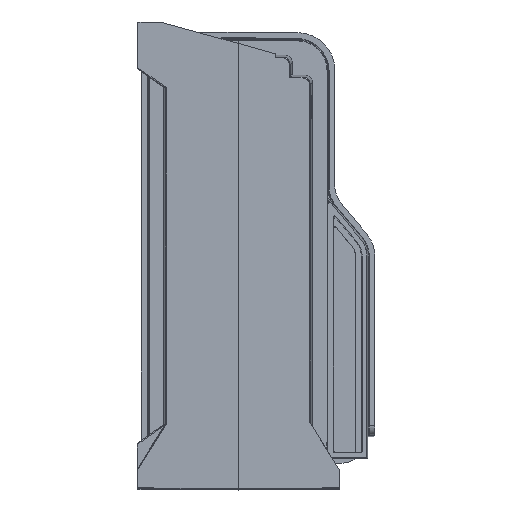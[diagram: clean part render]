
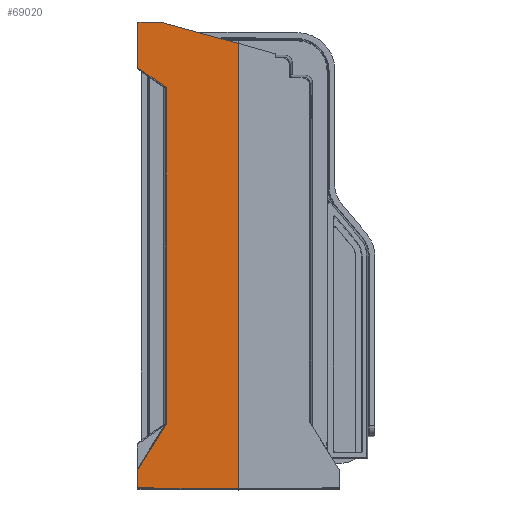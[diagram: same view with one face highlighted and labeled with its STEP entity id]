
A CAD part, top view. The second image highlights one B-rep face of the part: STEP entity #69020.
In plain terms, the highlighted planar face has unit normal (-0.009, 0, 1).
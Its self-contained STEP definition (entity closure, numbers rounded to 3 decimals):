
#21744=DIRECTION('',(0.,1.,0.));
#21745=VECTOR('',#21744,15.819);
#21746=CARTESIAN_POINT('',(-34.703,65.156,
105.697));
#21747=LINE('',#21746,#21745);
#21748=DIRECTION('',(-0.964,0.265,-0.008));
#21749=VECTOR('',#21748,27.838);
#21750=CARTESIAN_POINT('',(0.,73.575,106.));
#21751=LINE('',#21750,#21749);
#21752=DIRECTION('',(0.,1.,0.));
#21753=VECTOR('',#21752,154.275);
#21754=CARTESIAN_POINT('',(0.,-80.7,
106.));
#21755=LINE('',#21754,#21753);
#21756=DIRECTION('',(-1.,0.009,-0.009));
#21757=VECTOR('',#21756,34.705);
#21758=CARTESIAN_POINT('',(0.,-80.7,
106.));
#21759=LINE('',#21758,#21757);
#21760=DIRECTION('',(0.,-1.,0.));
#21761=VECTOR('',#21760,6.311);
#21762=CARTESIAN_POINT('',(-34.703,-74.086,
105.697));
#21763=LINE('',#21762,#21761);
#21764=DIRECTION('',(0.,1.,0.));
#21765=VECTOR('',#21764,115.9);
#21766=CARTESIAN_POINT('',(-24.69,-58.065,
105.785));
#21767=LINE('',#21766,#21765);
#21768=CARTESIAN_POINT('',(-24.69,57.835,
105.785));
#21769=CARTESIAN_POINT('',(-24.69,57.908,
105.785));
#21770=CARTESIAN_POINT('',(-24.715,58.042,
105.784));
#21771=CARTESIAN_POINT('',(-24.813,58.214,
105.783));
#21772=CARTESIAN_POINT('',(-24.898,58.293,
105.783));
#21773=CARTESIAN_POINT('',(-24.946,58.326,
105.782));
#21775=DIRECTION('',(-0.819,0.573,-0.007));
#21776=VECTOR('',#21775,11.91);
#21777=CARTESIAN_POINT('',(-24.946,58.326,
105.782));
#21778=LINE('',#21777,#21776);
#23702=DIRECTION('',(1.,-0.009,0.009));
#23703=VECTOR('',#23702,5.009);
#23704=CARTESIAN_POINT('',(-31.85,81.,105.722));
#23705=LINE('',#23704,#23703);
#23706=DIRECTION('',(1.,0.009,0.009));
#23707=VECTOR('',#23706,2.853);
#23708=CARTESIAN_POINT('',(-34.703,80.975,
105.697));
#23709=LINE('',#23708,#23707);
#24307=DIRECTION('',(-0.53,-0.848,-0.005));
#24308=VECTOR('',#24307,18.893);
#24309=CARTESIAN_POINT('',(-24.69,-58.065,
105.785));
#24310=LINE('',#24309,#24308);
#30604=CARTESIAN_POINT('',(0.,-80.7,
106.));
#30605=VERTEX_POINT('',#30604);
#30606=CARTESIAN_POINT('',(0.,73.575,106.));
#30607=VERTEX_POINT('',#30606);
#30676=CARTESIAN_POINT('',(-34.703,-80.397,
105.697));
#30677=VERTEX_POINT('',#30676);
#30678=CARTESIAN_POINT('',(-34.703,-74.086,
105.697));
#30679=VERTEX_POINT('',#30678);
#30931=CARTESIAN_POINT('',(-34.703,65.156,
105.697));
#30932=CARTESIAN_POINT('',(-34.703,80.975,
105.697));
#30933=VERTEX_POINT('',#30931);
#30934=VERTEX_POINT('',#30932);
#30939=CARTESIAN_POINT('',(-24.946,58.326,
105.782));
#30940=VERTEX_POINT('',#30939);
#30942=VERTEX_POINT('',#21768);
#30945=CARTESIAN_POINT('',(-24.69,-58.065,
105.785));
#30946=VERTEX_POINT('',#30945);
#36444=CARTESIAN_POINT('',(-26.841,80.956,
105.766));
#36445=VERTEX_POINT('',#36444);
#36478=CARTESIAN_POINT('',(-31.85,81.,105.722));
#36479=VERTEX_POINT('',#36478);
#68992=CARTESIAN_POINT('',(0.,-81.,106.));
#68993=DIRECTION('',(-0.009,0.,1.));
#68994=DIRECTION('',(0.,1.,0.));
#68995=AXIS2_PLACEMENT_3D('',#68992,#68993,#68994);
#68996=PLANE('',#68995);
#68998=ORIENTED_EDGE('',*,*,#68997,.T.);
#69000=ORIENTED_EDGE('',*,*,#68999,.T.);
#69002=ORIENTED_EDGE('',*,*,#69001,.T.);
#69004=ORIENTED_EDGE('',*,*,#69003,.F.);
#69006=ORIENTED_EDGE('',*,*,#69005,.F.);
#69007=ORIENTED_EDGE('',*,*,#68984,.T.);
#69009=ORIENTED_EDGE('',*,*,#69008,.F.);
#69011=ORIENTED_EDGE('',*,*,#69010,.F.);
#69013=ORIENTED_EDGE('',*,*,#69012,.T.);
#69015=ORIENTED_EDGE('',*,*,#69014,.T.);
#69017=ORIENTED_EDGE('',*,*,#69016,.T.);
#69018=EDGE_LOOP('',(#68998,#69000,#69002,#69004,#69006,#69007,#69009,#69011,
#69013,#69015,#69017));
#69019=FACE_OUTER_BOUND('',#69018,.F.);
#69020=ADVANCED_FACE('',(#69019),#68996,.T.);
#21774=B_SPLINE_CURVE_WITH_KNOTS('',3,(#21768,#21769,#21770,#21771,#21772,
#21773),.UNSPECIFIED.,.F.,.F.,(4,1,1,4),(0.,0.333,
0.667,1.),.UNSPECIFIED.);
#68984=EDGE_CURVE('',#30605,#30677,#21759,.T.);
#68997=EDGE_CURVE('',#30933,#30934,#21747,.T.);
#68999=EDGE_CURVE('',#30934,#36479,#23709,.T.);
#69001=EDGE_CURVE('',#36479,#36445,#23705,.T.);
#69003=EDGE_CURVE('',#30607,#36445,#21751,.T.);
#69005=EDGE_CURVE('',#30605,#30607,#21755,.T.);
#69008=EDGE_CURVE('',#30679,#30677,#21763,.T.);
#69010=EDGE_CURVE('',#30946,#30679,#24310,.T.);
#69012=EDGE_CURVE('',#30946,#30942,#21767,.T.);
#69014=EDGE_CURVE('',#30942,#30940,#21774,.T.);
#69016=EDGE_CURVE('',#30940,#30933,#21778,.T.);
